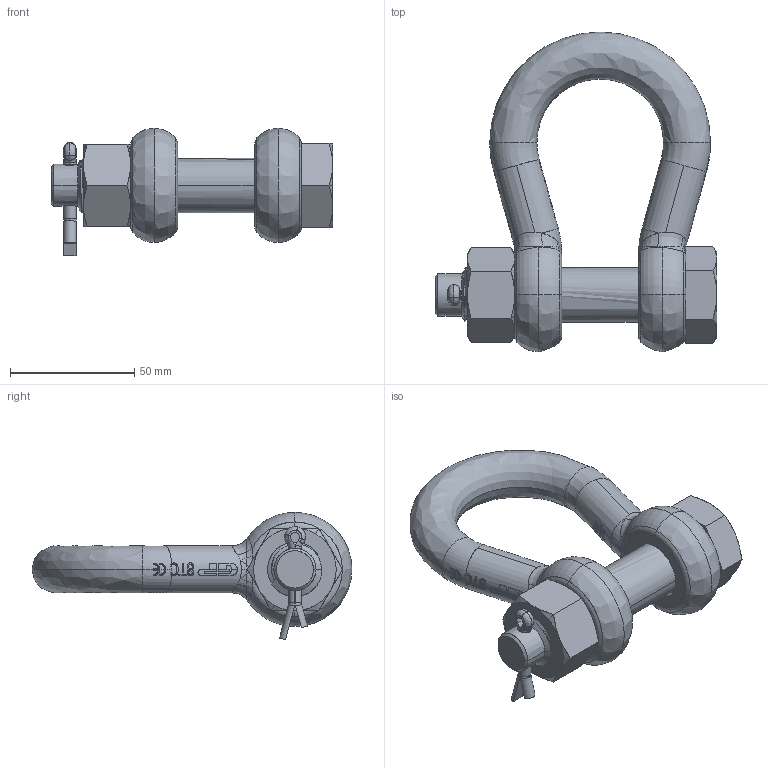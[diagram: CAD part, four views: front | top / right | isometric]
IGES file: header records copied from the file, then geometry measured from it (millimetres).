
Start section: START RECORD GO HERE.
Global section: file name: POGHMB19.igs; native system: Solidworks 2009                             ; preprocessor: Solidworks                 ; author: v.b.; organization: P4; date: 20090826.095122; units: millimetre
Bounding box: 113.5 x 129 x 51.32 mm (x, y, z)
Surface area: 40010.8 mm2 (no closed solid volume)
Topology: 0 solids, 0 shells, 760 faces, 4649 edges, 4640 vertices
Faces by surface type: bspline 292, plane 258, revolution 210
